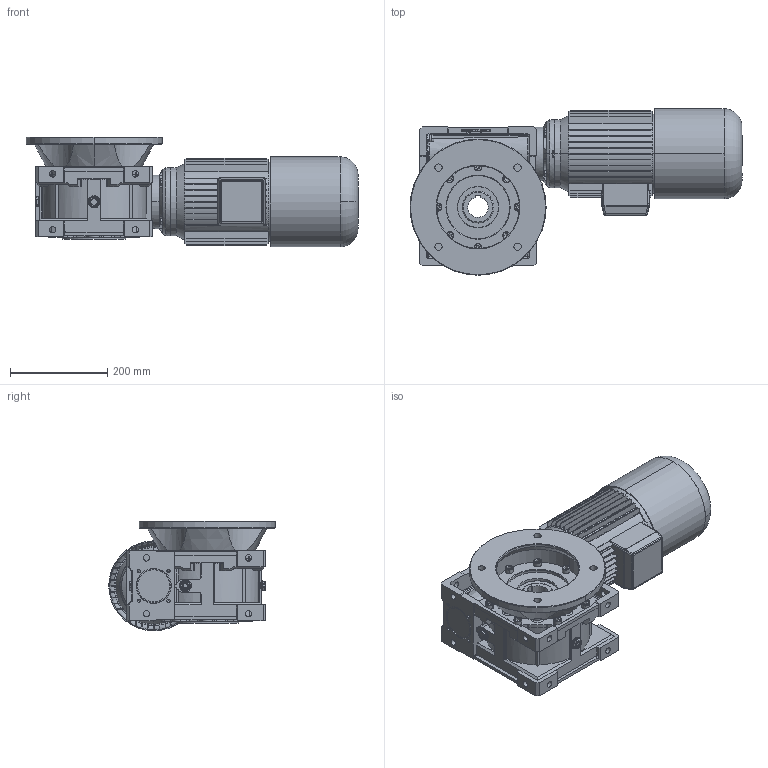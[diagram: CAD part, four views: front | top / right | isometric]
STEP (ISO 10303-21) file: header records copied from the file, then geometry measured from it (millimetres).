
FILE_DESCRIPTION((''),'2;1');
FILE_NAME('D:\_Assiemi MV\_File Sito\110\STP\MVFU110_B14-90LBRAKE.stp','2005-07-27T17:00:04',('tech2'),(''),'Autodesk Inventor 9','Autodesk Inventor 9','');
FILE_SCHEMA(('AUTOMOTIVE_DESIGN { 1 0 10303 214 1 1 1 1 }'));
Length unit declared in the file: millimetre
Products named in the file (17): MVFU110_B14-90LBRAKE; 4011001-A0; 4011004-A0; UNI 5931  (Filetto fine) M10 x  1.25 x  25; 4011008-A0; UNI-ISO 6194-1 (4) Tipo4 65 x  85 x  10; Capp-72-7; Guarnizione-tappo-3-8-gas; Tappo-3-8-gas-nero; Paraolio-50-80-7; 4011006-B0; UNI 5739  (Filetto regolare) M8 x 25; motori B14 brake 90L; FU_MV110; UNI 5931  (Filetto regolare) M 10 x  25
Assembly tree (38 placements, depth 3):
  MVFU110_B14-90LBRAKE
    4011001-A0
    4011004-A0
    UNI 5931  (Filetto fine) M10 x  1.25 x  25  x8
    4011008-A0
    UNI-ISO 6194-1 (4) Tipo4 65 x  85 x  10  x2
    Capp-72-7
    Guarnizione-tappo-3-8-gas  x3
    Tappo-3-8-gas-nero  x3
    Paraolio-50-80-7
    4011006-B0
      4011006-B0
      UNI 5739  (Filetto regolare) M8 x 25  x4
    motori B14 brake 90L
    FU_MV110
      FU_MV110
      UNI 5931  (Filetto regolare) M 10 x  25  x8
Bounding box: 683 x 342.5 x 225.5 mm (x, y, z)
Volume: 12938363.9 mm3; surface area: 1473955 mm2
Topology: 45 solids, 45 shells, 3757 faces, 9659 edges, 6068 vertices
Faces by surface type: plane 1509, cylinder 954, bspline 945, cone 265, torus 80, sphere 4
Entity records: 119784 total; most frequent: CARTESIAN_POINT 41084, ORIENTED_EDGE 16946, DIRECTION 15604, EDGE_CURVE 8473, AXIS2_PLACEMENT_3D 5534, VERTEX_POINT 5398, VECTOR 4536, LINE 4536
